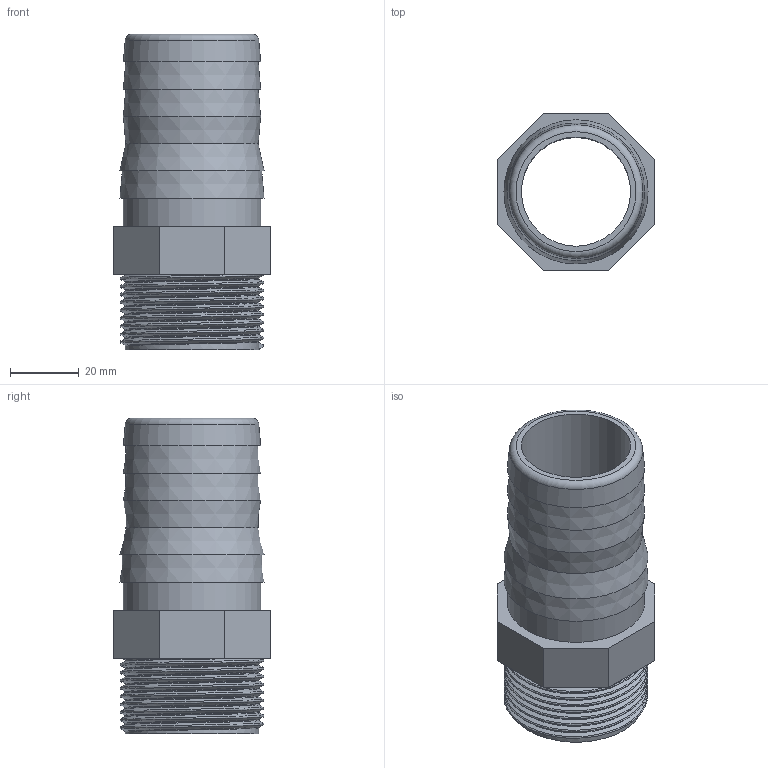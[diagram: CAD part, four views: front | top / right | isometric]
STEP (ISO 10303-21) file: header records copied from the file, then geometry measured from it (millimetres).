
FILE_DESCRIPTION(/* description */ ('PVC portagomma filettato BSP maschio'),/* implementation_level */ '2;1');
FILE_NAME(/* name */ 'C:\Users\POLYPIPE\Desktop\DATASET INVENTOR\LIBRERIA EFFAST\RACCORDI 3DxWEB\RER\3D_RERPGE\3D_RERPGE040E.stp',/* time_stamp */ '2018-01-19T16:52:55+01:00',/* author */ ('POLYPIPE'),/* organization */ ('Polypipe Italia s.r.l.'),/* preprocessor_version */ 'ST-DEVELOPER v16.1',/* originating_system */ 'Autodesk Inventor 2016',/* authorisation */ '');
FILE_SCHEMA (('CONFIG_CONTROL_DESIGN'));
Length unit declared in the file: millimetre
Products named in the file (1): 3D_RERPGE040E
Bounding box: 46 x 46 x 92 mm (x, y, z)
Volume: 49346.9 mm3; surface area: 25092.1 mm2
Topology: 1 solids, 1 shells, 32 faces, 67 edges, 43 vertices
Faces by surface type: plane 17, cone 6, bspline 5, cylinder 3, torus 1
Full cylindrical faces by diameter (mm): 31.8 x1, 38.952 x1, 40 x1
Entity records: 4482 total; most frequent: CARTESIAN_POINT 3827, DIRECTION 121, ORIENTED_EDGE 114, EDGE_CURVE 57, EDGE_LOOP 49, AXIS2_PLACEMENT_3D 47, VERTEX_POINT 42, FACE_OUTER_BOUND 32
